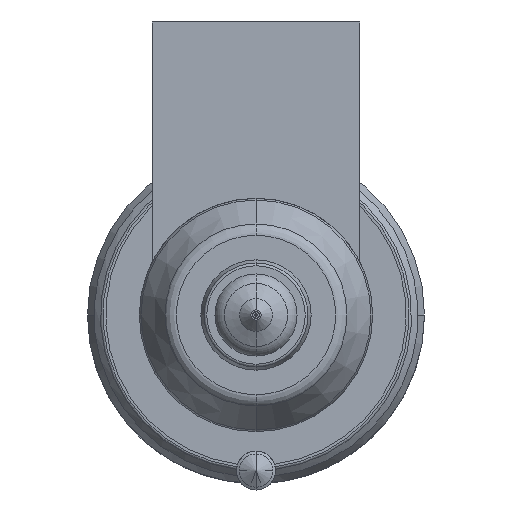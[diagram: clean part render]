
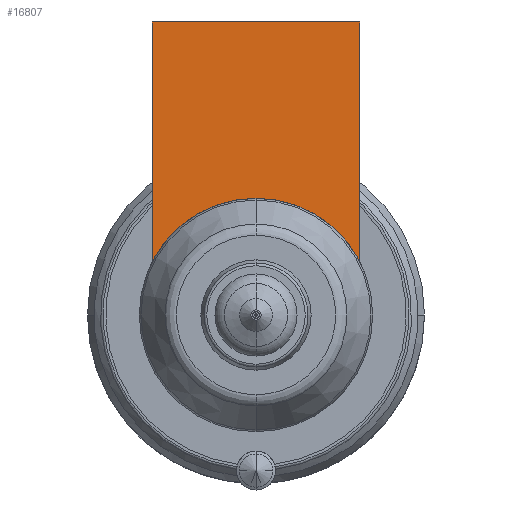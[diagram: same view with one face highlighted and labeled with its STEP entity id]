
A CAD part, front view. The second image highlights one B-rep face of the part: STEP entity #16807.
In plain terms, the highlighted planar face has unit normal (0, -1, 0).
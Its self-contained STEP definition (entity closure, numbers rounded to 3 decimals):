
#15383=DIRECTION('',(0.,0.,-1.));
#15384=VECTOR('',#15383,18.481);
#15385=CARTESIAN_POINT('',(-8.,-54.,22.604));
#15386=LINE('',#15385,#15384);
#15987=CARTESIAN_POINT('',(0.,-54.,0.));
#15988=DIRECTION('',(0.,-1.,0.));
#15989=DIRECTION('',(0.,0.,1.));
#15990=AXIS2_PLACEMENT_3D('',#15987,#15988,#15989);
#15995=DIRECTION('',(1.,0.,0.));
#15996=VECTOR('',#15995,16.);
#15997=CARTESIAN_POINT('',(-8.,-54.,22.604));
#15998=LINE('',#15997,#15996);
#16002=CARTESIAN_POINT('',(0.,-54.,0.));
#16003=DIRECTION('',(0.,-1.,0.));
#16004=DIRECTION('',(0.889,0.,0.458));
#16005=AXIS2_PLACEMENT_3D('',#16002,#16003,#16004);
#16088=DIRECTION('',(0.,0.,-1.));
#16089=VECTOR('',#16088,18.481);
#16090=CARTESIAN_POINT('',(8.,-54.,22.604));
#16091=LINE('',#16090,#16089);
#16193=CARTESIAN_POINT('',(-8.,-54.,22.604));
#16194=VERTEX_POINT('',#16193);
#16199=CARTESIAN_POINT('',(8.,-54.,22.604));
#16200=VERTEX_POINT('',#16199);
#16202=CARTESIAN_POINT('',(-8.,-54.,4.123));
#16204=VERTEX_POINT('',#16202);
#16206=CARTESIAN_POINT('',(8.,-54.,4.123));
#16208=VERTEX_POINT('',#16206);
#16209=CARTESIAN_POINT('',(0.,-54.,9.));
#16210=VERTEX_POINT('',#16209);
#16793=CARTESIAN_POINT('',(-8.,-54.,22.604));
#16794=DIRECTION('',(0.,-1.,0.));
#16795=DIRECTION('',(0.,0.,-1.));
#16796=AXIS2_PLACEMENT_3D('',#16793,#16794,#16795);
#16797=PLANE('',#16796);
#16798=ORIENTED_EDGE('',*,*,#16250,.T.);
#16799=ORIENTED_EDGE('',*,*,#16233,.F.);
#16801=ORIENTED_EDGE('',*,*,#16800,.T.);
#16803=ORIENTED_EDGE('',*,*,#16802,.T.);
#16804=ORIENTED_EDGE('',*,*,#16298,.T.);
#16805=EDGE_LOOP('',(#16798,#16799,#16801,#16803,#16804));
#16806=FACE_OUTER_BOUND('',#16805,.F.);
#16807=ADVANCED_FACE('',(#16806),#16797,.T.);
#15991=CIRCLE('',#15990,9.);
#16006=CIRCLE('',#16005,9.);
#16233=EDGE_CURVE('',#16194,#16204,#15386,.T.);
#16250=EDGE_CURVE('',#16210,#16204,#15991,.T.);
#16298=EDGE_CURVE('',#16208,#16210,#16006,.T.);
#16800=EDGE_CURVE('',#16194,#16200,#15998,.T.);
#16802=EDGE_CURVE('',#16200,#16208,#16091,.T.);
